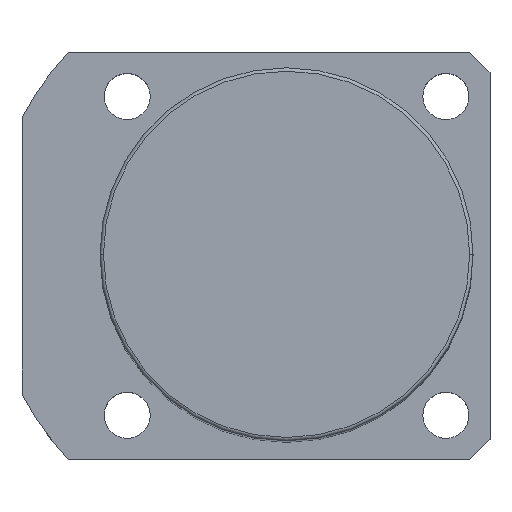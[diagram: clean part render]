
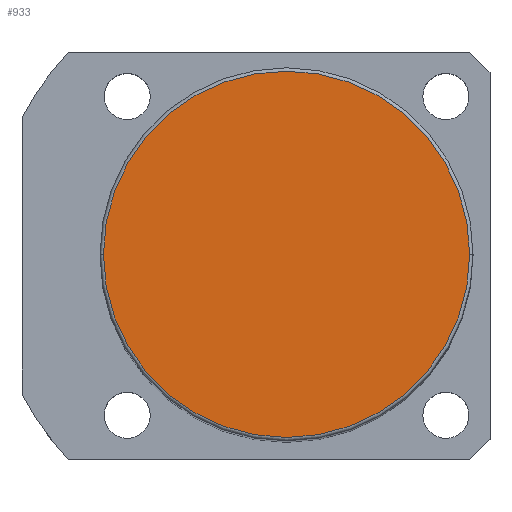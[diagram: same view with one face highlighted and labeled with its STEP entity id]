
A CAD part, top view. The second image highlights one B-rep face of the part: STEP entity #933.
In plain terms, the highlighted planar face has unit normal (0, 0, 1).
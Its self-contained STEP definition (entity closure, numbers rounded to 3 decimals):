
#153 = AXIS2_PLACEMENT_3D ( 'NONE', #288, #584, #987 ) ;
#177 = CARTESIAN_POINT ( 'NONE',  ( 0., 0., 141. ) ) ;
#255 = DIRECTION ( 'NONE',  ( 0., 0., 1. ) ) ;
#281 = VERTEX_POINT ( 'NONE', #1355 ) ;
#288 = CARTESIAN_POINT ( 'NONE',  ( 0., 0., 141. ) ) ;
#409 = CARTESIAN_POINT ( 'NONE',  ( 0., 0., 141. ) ) ;
#483 = DIRECTION ( 'NONE',  ( 1., 0., 0. ) ) ;
#484 = EDGE_CURVE ( 'NONE', #281, #658, #1168, .T. ) ;
#584 = DIRECTION ( 'NONE',  ( 0., 0., 1. ) ) ;
#586 = FACE_OUTER_BOUND ( 'NONE', #913, .T. ) ;
#658 = VERTEX_POINT ( 'NONE', #1237 ) ;
#688 = CIRCLE ( 'NONE', #1474, 27. ) ;
#751 = DIRECTION ( 'NONE',  ( 0., 0., 1. ) ) ;
#830 = DIRECTION ( 'NONE',  ( 1., 0., 0. ) ) ;
#913 = EDGE_LOOP ( 'NONE', ( #1488, #1181 ) ) ;
#933 = ADVANCED_FACE ( 'NONE', ( #586 ), #1316, .T. ) ;
#987 = DIRECTION ( 'NONE',  ( 1., 0., 0. ) ) ;
#997 = AXIS2_PLACEMENT_3D ( 'NONE', #177, #751, #483 ) ;
#1168 = CIRCLE ( 'NONE', #153, 27. ) ;
#1181 = ORIENTED_EDGE ( 'NONE', *, *, #1764, .T. ) ;
#1237 = CARTESIAN_POINT ( 'NONE',  ( -27., 0., 141. ) ) ;
#1316 = PLANE ( 'NONE',  #997 ) ;
#1355 = CARTESIAN_POINT ( 'NONE',  ( 27., 0., 141. ) ) ;
#1474 = AXIS2_PLACEMENT_3D ( 'NONE', #409, #255, #830 ) ;
#1488 = ORIENTED_EDGE ( 'NONE', *, *, #484, .T. ) ;
#1764 = EDGE_CURVE ( 'NONE', #658, #281, #688, .T. ) ;
